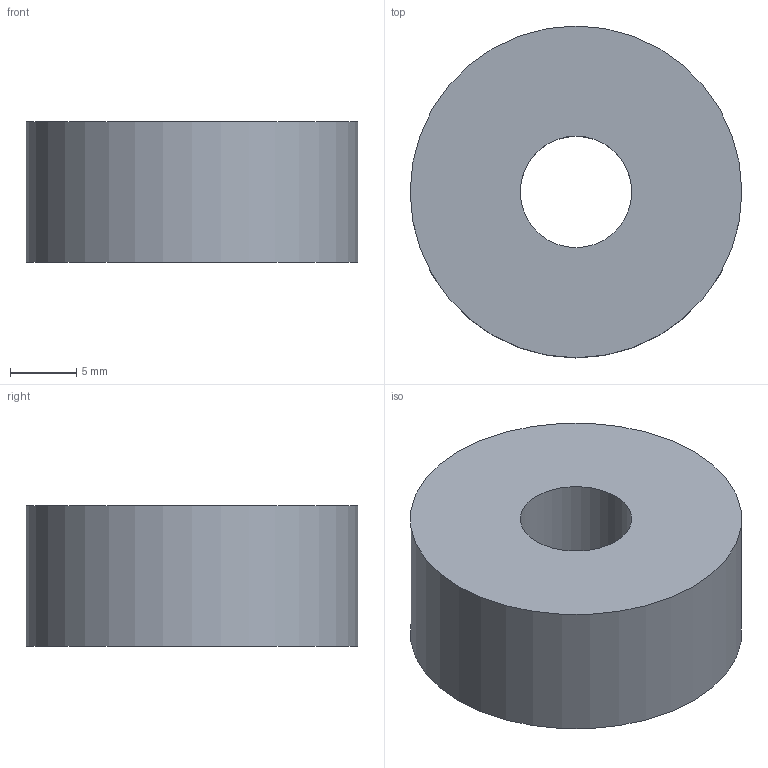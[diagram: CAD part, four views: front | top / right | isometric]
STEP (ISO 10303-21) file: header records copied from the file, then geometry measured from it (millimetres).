
FILE_DESCRIPTION(('Open CASCADE Model'),'2;1');
FILE_NAME('Open CASCADE Shape Model','2026-09-24T08:21:24',('Author'),( 'Open CASCADE'),'Open CASCADE STEP processor 7.8','Open CASCADE 7.8' ,'Unknown');
FILE_SCHEMA(('AUTOMOTIVE_DESIGN { 1 0 10303 214 1 1 1 1 }'));
Length unit declared in the file: millimetre
Products named in the file (1): Open CASCADE STEP translator 7.8 4
Bounding box: 25 x 25 x 10.55 mm (x, y, z)
Volume: 4594.1 mm3; surface area: 1977.9 mm2
Topology: 1 solids, 1 shells, 4 faces, 6 edges, 4 vertices
Faces by surface type: cylinder 2, plane 2
Full cylindrical faces by diameter (mm): 8.4 x1, 25 x1
Entity records: 186 total; most frequent: DIRECTION 32, CARTESIAN_POINT 27, ORIENTED_EDGE 12, PCURVE 12, DEFINITIONAL_REPRESENTATION 12, LINE 10, VECTOR 10, AXIS2_PLACEMENT_3D 9
